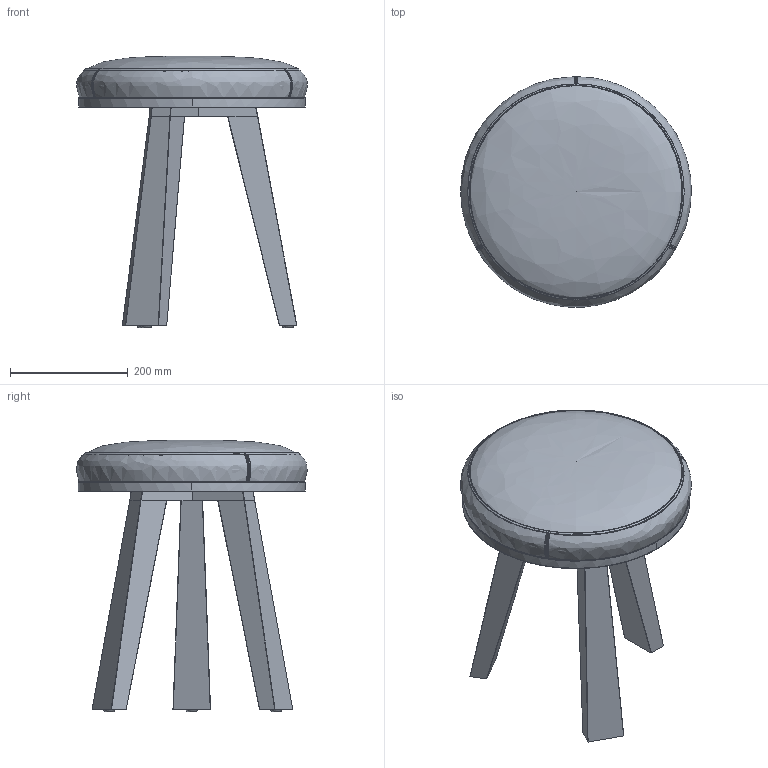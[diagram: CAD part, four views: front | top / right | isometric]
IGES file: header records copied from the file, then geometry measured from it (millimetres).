
Global section: file name: C:\Users\Mickael CHALON\OneDrive - BASTIAT SIEGES\Bureau\CN\Table Escamp\Tabouret escamp\Tabouret Escamp\Tabouret Escamp 3DS Max.igs; native system: Rhinoceros ( Oct  8 2025 ); preprocessor: Trout Lake IGES 012 Oct  8 2025; date: 251030.102559; units: millimetre
Bounding box: 392.75 x 392.49 x 462.04 mm (x, y, z)
Surface area: 923172.6 mm2 (no closed solid volume)
Topology: 0 solids, 0 shells, 267 faces, 1324 edges, 1311 vertices
Faces by surface type: bspline 267
